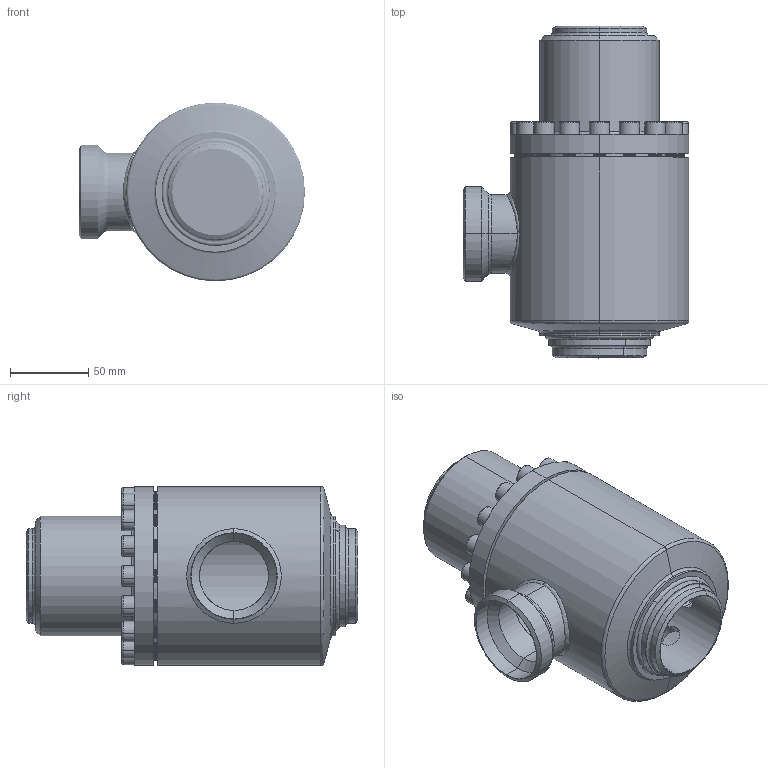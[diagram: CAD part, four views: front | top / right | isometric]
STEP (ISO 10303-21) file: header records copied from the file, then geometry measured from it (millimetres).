
FILE_DESCRIPTION (( 'STEP AP214' ), '1' );
FILE_NAME ('TR47000C15-DN50_R1_PS40.STEP', '2005-08-10T05:56:35', ( 'Herr Grams' ), ( 'AWP GmbH' ), 'SwSTEP 2.0', 'SolidWorks 2002296', '' );
FILE_SCHEMA (( 'AUTOMOTIVE_DESIGN' ));
Length unit declared in the file: millimetre
Products named in the file (10): Geh47000E15_DN50_PS40_R1_Standard; Kehlnaht15-2_Standard; Stutzenteil47000E15_DN50_PS40_R1_Standard; bead15-3_Standard; Zylinderschraube-DIN912-M 8x25_M 8x 25; TR47000C15-DN50_R1_PS40; Führungsring47050-15-DN50_Standard; Deckel47000E15_DN50_PS40_R1_Standard; Geh-kpl47000E15-DN50_PS40_R1_Standard; RohrstutzA47000E15-DN50_PS40_R1_Standard
Assembly tree (24 placements, depth 3):
  TR47000C15-DN50_R1_PS40
    Zylinderschraube-DIN912-M 8x25_M 8x 25  x16
    Geh-kpl47000E15-DN50_PS40_R1_Standard
      Stutzenteil47000E15_DN50_PS40_R1_Standard
      bead15-3_Standard
      Kehlnaht15-2_Standard
      Geh47000E15_DN50_PS40_R1_Standard
      RohrstutzA47000E15-DN50_PS40_R1_Standard
    Führungsring47050-15-DN50_Standard
    Deckel47000E15_DN50_PS40_R1_Standard
Bounding box: 144 x 211.5 x 114 mm (x, y, z)
Volume: 827331.9 mm3; surface area: 213140.8 mm2
Topology: 23 solids, 23 shells, 1110 faces, 2966 edges, 1942 vertices
Faces by surface type: cylinder 760, plane 200, cone 68, torus 48, bspline 34
Entity records: 24093 total; most frequent: CARTESIAN_POINT 17753, DIRECTION 1143, ORIENTED_EDGE 1102, EDGE_CURVE 551, AXIS2_PLACEMENT_3D 477, VERTEX_POINT 352, EDGE_LOOP 293, CIRCLE 228
